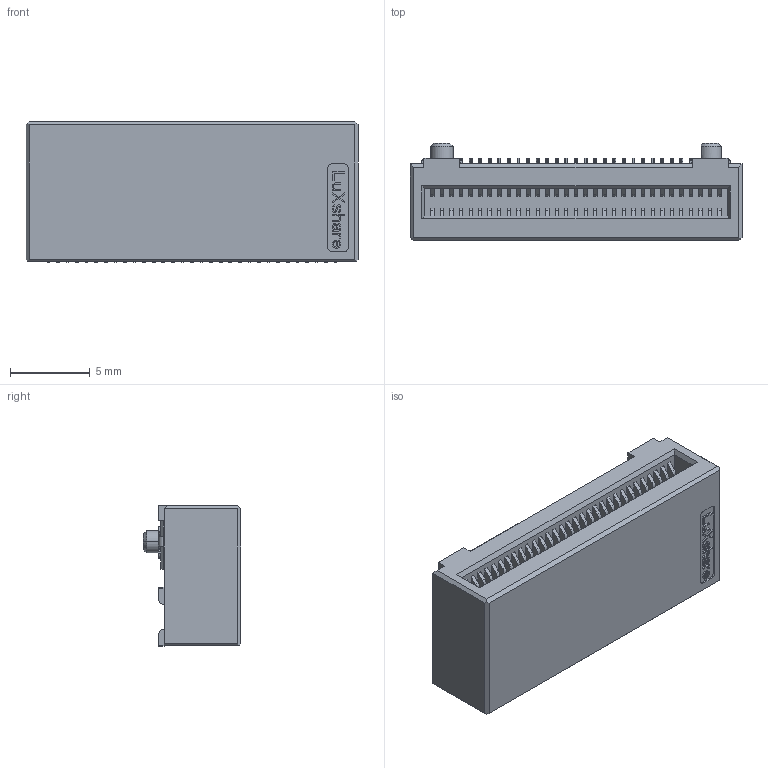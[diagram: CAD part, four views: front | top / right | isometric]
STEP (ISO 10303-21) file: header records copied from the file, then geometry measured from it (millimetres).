
FILE_DESCRIPTION((''),'2;1');
FILE_NAME('ASM_62PIN_1_ASM_SW0002_1_1','2026-07-21T15:33:10',('31004661'),(''),'CREO PARAMETRIC BY PTC INC, 2022244','CREO PARAMETRIC BY PTC INC, 2022244','');
FILE_SCHEMA(('CONFIG_CONTROL_DESIGN'));
Length unit declared in the file: millimetre
Products named in the file (1): ASM_62PIN_1_ASM_SW0002_1_1
Bounding box: 20.8 x 6.1 x 8.83 mm (x, y, z)
Volume: 757.7 mm3; surface area: 961.3 mm2
Topology: 1 solids, 1 shells, 1406 faces, 3755 edges, 2456 vertices
Faces by surface type: plane 985, cylinder 409, bspline 8, cone 4
Entity records: 43844 total; most frequent: CARTESIAN_POINT 8019, ORIENTED_EDGE 7510, DIRECTION 7326, EDGE_CURVE 3755, VECTOR 2928, LINE 2928, VERTEX_POINT 2456, AXIS2_PLACEMENT_3D 2199
